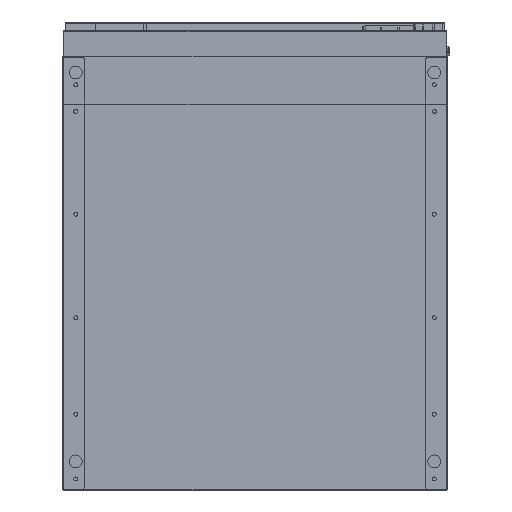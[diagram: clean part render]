
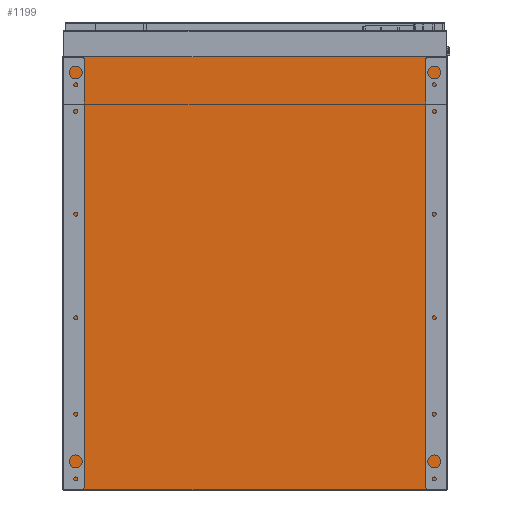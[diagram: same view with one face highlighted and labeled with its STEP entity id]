
A CAD part, front view. The second image highlights one B-rep face of the part: STEP entity #1199.
In plain terms, the highlighted planar face has unit normal (0, -1, 0).
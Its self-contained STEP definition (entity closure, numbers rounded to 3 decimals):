
#1008=DIRECTION('',(0.,0.,-1.));
#1009=VECTOR('',#1008,668.507);
#1010=CARTESIAN_POINT('',(-296.754,-1709.5,334.254));
#1011=LINE('',#1010,#1009);
#1012=DIRECTION('',(-1.,0.,0.));
#1013=VECTOR('',#1012,593.507);
#1014=CARTESIAN_POINT('',(296.754,-1709.5,334.254));
#1015=LINE('',#1014,#1013);
#1016=DIRECTION('',(0.,0.,1.));
#1017=VECTOR('',#1016,668.507);
#1018=CARTESIAN_POINT('',(296.754,-1709.5,-334.254));
#1019=LINE('',#1018,#1017);
#1020=DIRECTION('',(1.,0.,0.));
#1021=VECTOR('',#1020,593.507);
#1022=CARTESIAN_POINT('',(-296.754,-1709.5,-334.254));
#1023=LINE('',#1022,#1021);
#1032=CARTESIAN_POINT('',(-296.754,-1709.5,334.254));
#1033=CARTESIAN_POINT('',(-296.754,-1709.5,-334.254));
#1034=VERTEX_POINT('',#1032);
#1035=VERTEX_POINT('',#1033);
#1036=CARTESIAN_POINT('',(296.754,-1709.5,-334.254));
#1037=VERTEX_POINT('',#1036);
#1038=CARTESIAN_POINT('',(296.754,-1709.5,334.254));
#1039=VERTEX_POINT('',#1038);
#1187=CARTESIAN_POINT('',(0.,-1709.5,0.));
#1188=DIRECTION('',(0.,-1.,0.));
#1189=DIRECTION('',(1.,0.,0.));
#1190=AXIS2_PLACEMENT_3D('',#1187,#1188,#1189);
#1191=PLANE('',#1190);
#1192=ORIENTED_EDGE('',*,*,#1108,.F.);
#1194=ORIENTED_EDGE('',*,*,#1193,.F.);
#1195=ORIENTED_EDGE('',*,*,#1155,.F.);
#1196=ORIENTED_EDGE('',*,*,#1121,.F.);
#1197=EDGE_LOOP('',(#1192,#1194,#1195,#1196));
#1198=FACE_OUTER_BOUND('',#1197,.F.);
#1199=ADVANCED_FACE('',(#1198),#1191,.T.);
#1108=EDGE_CURVE('',#1034,#1035,#1011,.T.);
#1121=EDGE_CURVE('',#1035,#1037,#1023,.T.);
#1155=EDGE_CURVE('',#1037,#1039,#1019,.T.);
#1193=EDGE_CURVE('',#1039,#1034,#1015,.T.);
